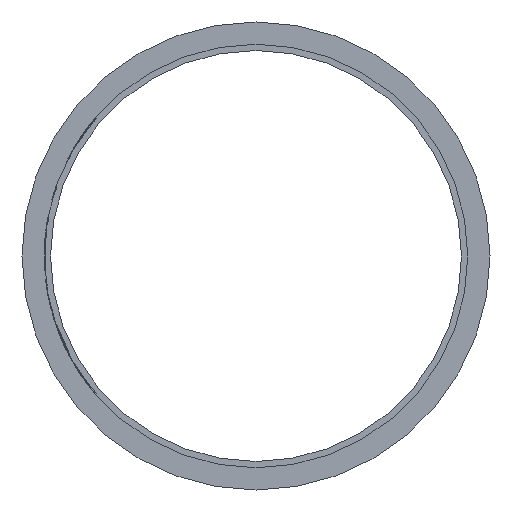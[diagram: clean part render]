
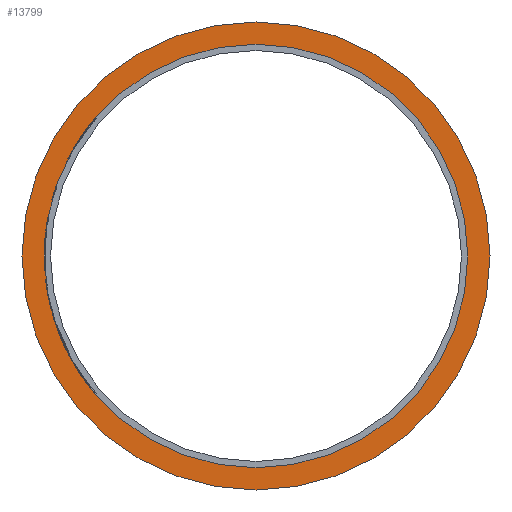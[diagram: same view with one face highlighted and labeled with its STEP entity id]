
A CAD part, left-side view. The second image highlights one B-rep face of the part: STEP entity #13799.
In plain terms, the highlighted planar face has unit normal (-1, 0, 0).
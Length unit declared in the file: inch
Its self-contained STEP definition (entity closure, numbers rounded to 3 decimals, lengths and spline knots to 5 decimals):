
#13757=CARTESIAN_POINT('',(0.125,2.19,0.0));
#13758=VERTEX_POINT('',#13757);
#13759=CARTESIAN_POINT('',(0.125,0.0,0.0));
#13760=DIRECTION('',(1.0,0.0,0.0));
#13761=DIRECTION('',(0.0,1.0,0.0));
#13762=AXIS2_PLACEMENT_3D('',#13759,#13760,#13761);
#13763=CIRCLE('',#13762,2.19);
#13764=EDGE_CURVE('',#13758,#13758,#13763,.T.);
#13780=CARTESIAN_POINT('',(0.125,2.305,0.0));
#13781=DIRECTION('',(-1.0,0.0,0.0));
#13782=DIRECTION('',(0.0,0.0,1.0));
#13783=AXIS2_PLACEMENT_3D('',#13780,#13781,#13782);
#13784=PLANE('',#13783);
#13785=CARTESIAN_POINT('',(0.125,2.42,0.0));
#13786=VERTEX_POINT('',#13785);
#13787=CARTESIAN_POINT('',(0.125,0.0,0.0));
#13788=DIRECTION('',(1.0,0.0,0.0));
#13789=DIRECTION('',(0.0,1.0,0.0));
#13790=AXIS2_PLACEMENT_3D('',#13787,#13788,#13789);
#13791=CIRCLE('',#13790,2.42);
#13792=EDGE_CURVE('',#13786,#13786,#13791,.T.);
#13793=ORIENTED_EDGE('',*,*,#13792,.F.);
#13794=EDGE_LOOP('',(#13793));
#13795=FACE_OUTER_BOUND('',#13794,.T.);
#13796=ORIENTED_EDGE('',*,*,#13764,.T.);
#13797=EDGE_LOOP('',(#13796));
#13798=FACE_BOUND('',#13797,.T.);
#13799=ADVANCED_FACE('',(#13795,#13798),#13784,.T.);
